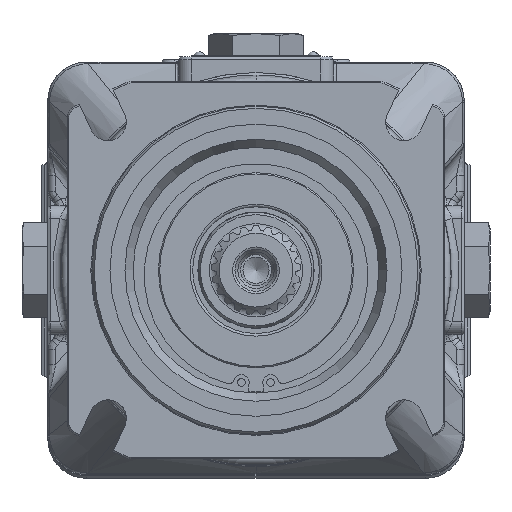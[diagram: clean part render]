
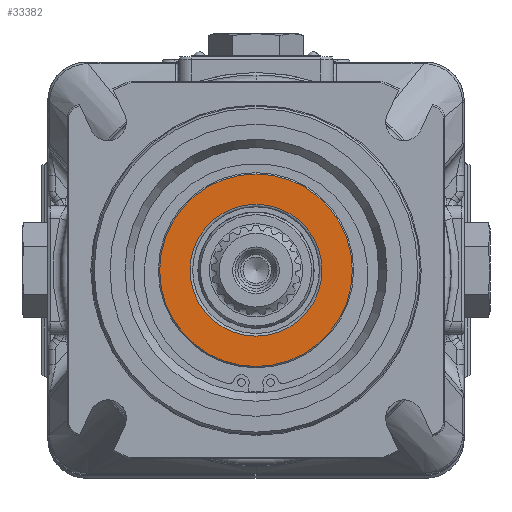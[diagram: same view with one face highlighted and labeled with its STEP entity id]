
A CAD part, front view. The second image highlights one B-rep face of the part: STEP entity #33382.
In plain terms, the highlighted planar face has unit normal (0, -1, 0).
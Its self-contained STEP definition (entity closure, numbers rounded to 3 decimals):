
#6533=PLANE('',#36414);
#7224=FACE_BOUND('',#10643,.T.);
#8530=FACE_OUTER_BOUND('',#10642,.T.);
#10642=EDGE_LOOP('',(#25886));
#10643=EDGE_LOOP('',(#25887));
#12759=CIRCLE('',#36413,25.5);
#12760=CIRCLE('',#36415,37.25);
#14616=VERTEX_POINT('',#60974);
#14617=VERTEX_POINT('',#60977);
#18584=EDGE_CURVE('',#14616,#14616,#12759,.T.);
#18585=EDGE_CURVE('',#14617,#14617,#12760,.T.);
#25886=ORIENTED_EDGE('',*,*,#18585,.F.);
#25887=ORIENTED_EDGE('',*,*,#18584,.F.);
#33382=ADVANCED_FACE('',(#8530,#7224),#6533,.T.);
#36413=AXIS2_PLACEMENT_3D('',#60975,#42703,#42704);
#36414=AXIS2_PLACEMENT_3D('',#60976,#42705,#42706);
#36415=AXIS2_PLACEMENT_3D('',#60978,#42707,#42708);
#42703=DIRECTION('center_axis',(0.,-1.,0.));
#42704=DIRECTION('ref_axis',(0.,0.,
-1.));
#42705=DIRECTION('center_axis',(0.,-1.,0.));
#42706=DIRECTION('ref_axis',(0.,0.,-1.));
#42707=DIRECTION('center_axis',(0.,1.,0.));
#42708=DIRECTION('ref_axis',(0.,0.,
-1.));
#60974=CARTESIAN_POINT('',(0.,-154.9,25.5));
#60975=CARTESIAN_POINT('Origin',(0.,-154.9,0.));
#60976=CARTESIAN_POINT('Origin',(0.,-154.9,31.375));
#60977=CARTESIAN_POINT('',(0.,-154.9,37.25));
#60978=CARTESIAN_POINT('Origin',(0.,-154.9,0.));
